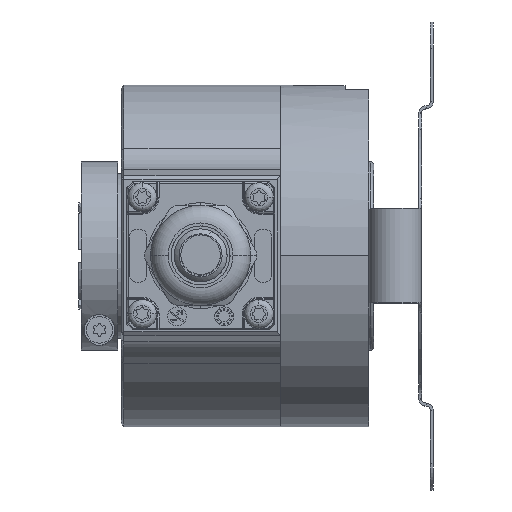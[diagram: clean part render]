
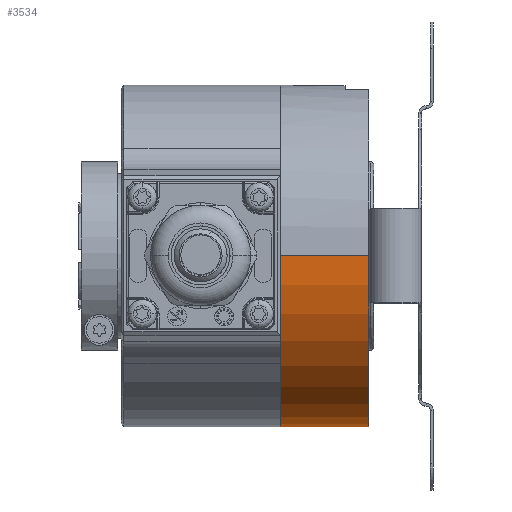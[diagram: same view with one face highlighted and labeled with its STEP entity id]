
A CAD part, top view. The second image highlights one B-rep face of the part: STEP entity #3534.
In plain terms, the highlighted cylindrical face has radius 29 mm (diameter 58 mm), a partial arc.
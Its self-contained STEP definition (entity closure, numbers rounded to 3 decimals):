
#732 = CARTESIAN_POINT ( 'NONE',  ( 0., 0., -29. ) ) ;
#1420 = ORIENTED_EDGE ( 'NONE', *, *, #21469, .T. ) ;
#1449 = EDGE_CURVE ( 'NONE', #14412, #9655, #21672, .T. ) ;
#3015 = DIRECTION ( 'NONE',  ( 0., 0., 1. ) ) ;
#3096 = FACE_OUTER_BOUND ( 'NONE', #11878, .T. ) ;
#3504 = LINE ( 'NONE', #9103, #17225 ) ;
#3534 = ADVANCED_FACE ( 'NONE', ( #3096 ), #12988, .T. ) ;
#3973 = VECTOR ( 'NONE', #9562, 1000. ) ;
#4951 = VERTEX_POINT ( 'NONE', #16330 ) ;
#5456 = CARTESIAN_POINT ( 'NONE',  ( -21.996, 0., -29. ) ) ;
#9103 = CARTESIAN_POINT ( 'NONE',  ( -21.996, 0., 29. ) ) ;
#9183 = DIRECTION ( 'NONE',  ( -1., 0., 0. ) ) ;
#9562 = DIRECTION ( 'NONE',  ( -1., 0., 0. ) ) ;
#9655 = VERTEX_POINT ( 'NONE', #13435 ) ;
#9919 = EDGE_CURVE ( 'NONE', #4951, #9655, #3504, .T. ) ;
#10214 = AXIS2_PLACEMENT_3D ( 'NONE', #20174, #9183, #10807 ) ;
#10807 = DIRECTION ( 'NONE',  ( 0., 0., 1. ) ) ;
#11574 = ORIENTED_EDGE ( 'NONE', *, *, #1449, .F. ) ;
#11878 = EDGE_LOOP ( 'NONE', ( #18199, #1420, #17305, #11574 ) ) ;
#12067 = DIRECTION ( 'NONE',  ( 0., 0., 1. ) ) ;
#12988 = CYLINDRICAL_SURFACE ( 'NONE', #10214, 29. ) ;
#13435 = CARTESIAN_POINT ( 'NONE',  ( 0., 0., 29. ) ) ;
#14281 = AXIS2_PLACEMENT_3D ( 'NONE', #16153, #18119, #3015 ) ;
#14412 = VERTEX_POINT ( 'NONE', #732 ) ;
#15762 = DIRECTION ( 'NONE',  ( -1., 0., 0. ) ) ;
#16153 = CARTESIAN_POINT ( 'NONE',  ( 15., 0., 0. ) ) ;
#16330 = CARTESIAN_POINT ( 'NONE',  ( 15., 0., 29. ) ) ;
#16778 = DIRECTION ( 'NONE',  ( -1., 0., 0. ) ) ;
#16969 = LINE ( 'NONE', #5456, #3973 ) ;
#17225 = VECTOR ( 'NONE', #16778, 1000. ) ;
#17249 = CARTESIAN_POINT ( 'NONE',  ( 0., 0., 0. ) ) ;
#17305 = ORIENTED_EDGE ( 'NONE', *, *, #9919, .T. ) ;
#18119 = DIRECTION ( 'NONE',  ( -1., 0., 0. ) ) ;
#18199 = ORIENTED_EDGE ( 'NONE', *, *, #21044, .F. ) ;
#19366 = CARTESIAN_POINT ( 'NONE',  ( 15., 0., -29. ) ) ;
#20174 = CARTESIAN_POINT ( 'NONE',  ( -21.996, 0., 0. ) ) ;
#20436 = VERTEX_POINT ( 'NONE', #19366 ) ;
#20497 = AXIS2_PLACEMENT_3D ( 'NONE', #17249, #15762, #12067 ) ;
#21044 = EDGE_CURVE ( 'NONE', #20436, #14412, #16969, .T. ) ;
#21469 = EDGE_CURVE ( 'NONE', #20436, #4951, #22153, .T. ) ;
#21672 = CIRCLE ( 'NONE', #20497, 29. ) ;
#22153 = CIRCLE ( 'NONE', #14281, 29. ) ;
